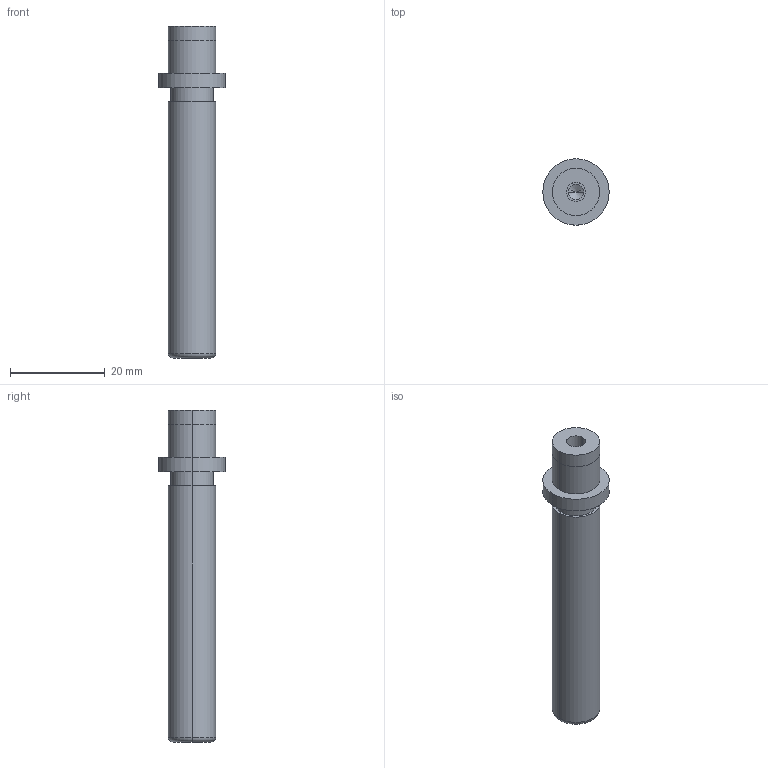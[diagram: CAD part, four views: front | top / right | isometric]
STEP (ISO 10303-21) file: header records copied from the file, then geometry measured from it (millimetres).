
FILE_DESCRIPTION(/* description */ (''),/* implementation_level */ '2;1');
FILE_NAME(/* name */ '3d_sgpw10-60_05294_r00.stp',/* time_stamp */ '2011-01-10T14:11:05+09:00',/* author */ ('MISUMI'),/* organization */ (''),/* preprocessor_version */ 'ST-DEVELOPER v11',/* originating_system */ 'UGS - NX 5.0',/* authorisation */ '');
FILE_SCHEMA (('CONFIG_CONTROL_DESIGN'));
Length unit declared in the file: millimetre
Products named in the file (1): 3d_sgpw10-60_05294_r00
Bounding box: 14 x 14 x 70 mm (x, y, z)
Volume: 5381.8 mm3; surface area: 2846.6 mm2
Topology: 1 solids, 1 shells, 31 faces, 64 edges, 38 vertices
Faces by surface type: cylinder 18, plane 7, cone 4, torus 2
Entity records: 890 total; most frequent: DIRECTION 162, CARTESIAN_POINT 130, ORIENTED_EDGE 120, AXIS2_PLACEMENT_3D 70, EDGE_CURVE 60, EDGE_LOOP 38, CIRCLE 38, VERTEX_POINT 38
